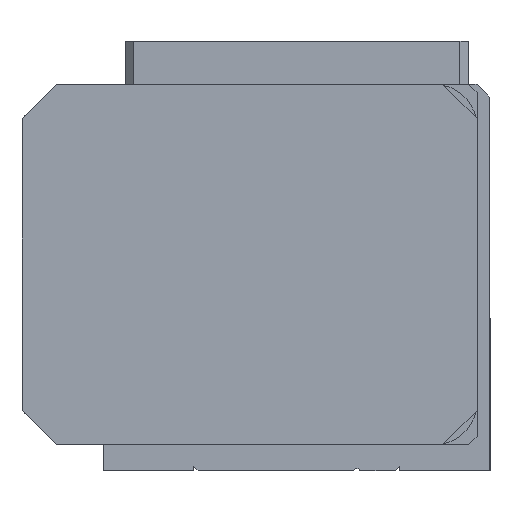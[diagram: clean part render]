
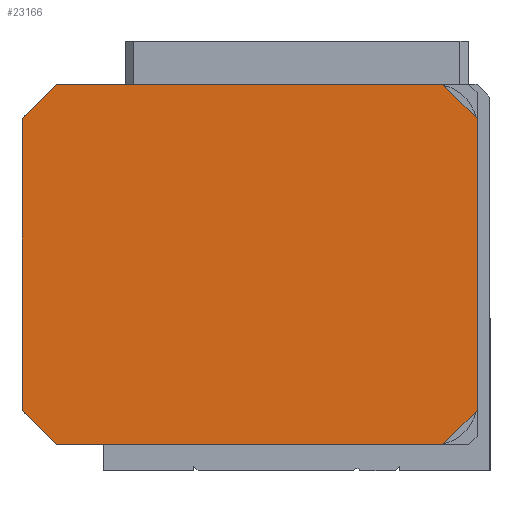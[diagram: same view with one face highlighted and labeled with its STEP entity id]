
A CAD part, left-side view. The second image highlights one B-rep face of the part: STEP entity #23166.
In plain terms, the highlighted planar face has unit normal (-1, 0, 0).
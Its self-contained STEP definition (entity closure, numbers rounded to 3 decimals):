
#22442=CARTESIAN_POINT('',(0.0,-21.,28.));
#22443=VERTEX_POINT('',#22442);
#22450=CARTESIAN_POINT('',(0.0,-21.0,-17.0));
#22451=VERTEX_POINT('',#22450);
#22452=CARTESIAN_POINT('',(0.0,-21.0,-17.0));
#22453=DIRECTION('',(0.0,0.0,1.0));
#22454=VECTOR('',#22453,45.);
#22455=LINE('',#22452,#22454);
#22456=EDGE_CURVE('',#22451,#22443,#22455,.T.);
#22843=CARTESIAN_POINT('',(0.0,21.0,28.));
#22844=VERTEX_POINT('',#22843);
#22851=CARTESIAN_POINT('',(0.0,17.0,32.));
#22852=VERTEX_POINT('',#22851);
#22853=CARTESIAN_POINT('',(0.0,17.0,32.));
#22854=DIRECTION('',(0.0,0.707,-0.707));
#22855=VECTOR('',#22854,5.657);
#22856=LINE('',#22853,#22855);
#22857=EDGE_CURVE('',#22852,#22844,#22856,.T.);
#22884=CARTESIAN_POINT('',(0.0,17.,-21.0));
#22885=VERTEX_POINT('',#22884);
#22892=CARTESIAN_POINT('',(0.0,21.0,-17.0));
#22893=VERTEX_POINT('',#22892);
#22894=CARTESIAN_POINT('',(0.0,21.0,-17.0));
#22895=DIRECTION('',(0.0,-0.707,-0.707));
#22896=VECTOR('',#22895,5.657);
#22897=LINE('',#22894,#22896);
#22898=EDGE_CURVE('',#22893,#22885,#22897,.T.);
#22940=CARTESIAN_POINT('',(0.0,-17.,-21.0));
#22941=VERTEX_POINT('',#22940);
#22942=CARTESIAN_POINT('',(0.0,-17.,-21.0));
#22943=DIRECTION('',(0.0,-0.707,0.707));
#22944=VECTOR('',#22943,5.657);
#22945=LINE('',#22942,#22944);
#22946=EDGE_CURVE('',#22941,#22451,#22945,.T.);
#22973=CARTESIAN_POINT('',(0.0,-17.,32.));
#22974=VERTEX_POINT('',#22973);
#22981=CARTESIAN_POINT('',(0.0,-21.,28.));
#22982=DIRECTION('',(0.0,0.707,0.707));
#22983=VECTOR('',#22982,5.657);
#22984=LINE('',#22981,#22983);
#22985=EDGE_CURVE('',#22443,#22974,#22984,.T.);
#23030=CARTESIAN_POINT('',(0.0,21.0,28.));
#23031=DIRECTION('',(0.0,0.0,-1.0));
#23032=VECTOR('',#23031,45.);
#23033=LINE('',#23030,#23032);
#23034=EDGE_CURVE('',#22844,#22893,#23033,.T.);
#23141=CARTESIAN_POINT('',(0.,0.0,32.));
#23142=DIRECTION('',(-1.0,0.0,0.0));
#23143=DIRECTION('',(0.0,0.0,1.0));
#23144=AXIS2_PLACEMENT_3D('',#23141,#23142,#23143);
#23145=PLANE('',#23144);
#23146=ORIENTED_EDGE('',*,*,#22857,.T.);
#23147=ORIENTED_EDGE('',*,*,#23034,.T.);
#23148=ORIENTED_EDGE('',*,*,#22898,.T.);
#23149=CARTESIAN_POINT('',(0.0,17.,-21.0));
#23150=DIRECTION('',(0.0,-1.0,0.0));
#23151=VECTOR('',#23150,34.);
#23152=LINE('',#23149,#23151);
#23153=EDGE_CURVE('',#22885,#22941,#23152,.T.);
#23154=ORIENTED_EDGE('',*,*,#23153,.T.);
#23155=ORIENTED_EDGE('',*,*,#22946,.T.);
#23156=ORIENTED_EDGE('',*,*,#22456,.T.);
#23157=ORIENTED_EDGE('',*,*,#22985,.T.);
#23158=CARTESIAN_POINT('',(0.0,-17.,32.));
#23159=DIRECTION('',(0.0,1.0,0.0));
#23160=VECTOR('',#23159,34.);
#23161=LINE('',#23158,#23160);
#23162=EDGE_CURVE('',#22974,#22852,#23161,.T.);
#23163=ORIENTED_EDGE('',*,*,#23162,.T.);
#23164=EDGE_LOOP('',(#23146,#23147,#23148,#23154,#23155,#23156,#23157,#23163));
#23165=FACE_OUTER_BOUND('',#23164,.T.);
#23166=ADVANCED_FACE('',(#23165),#23145,.T.);
